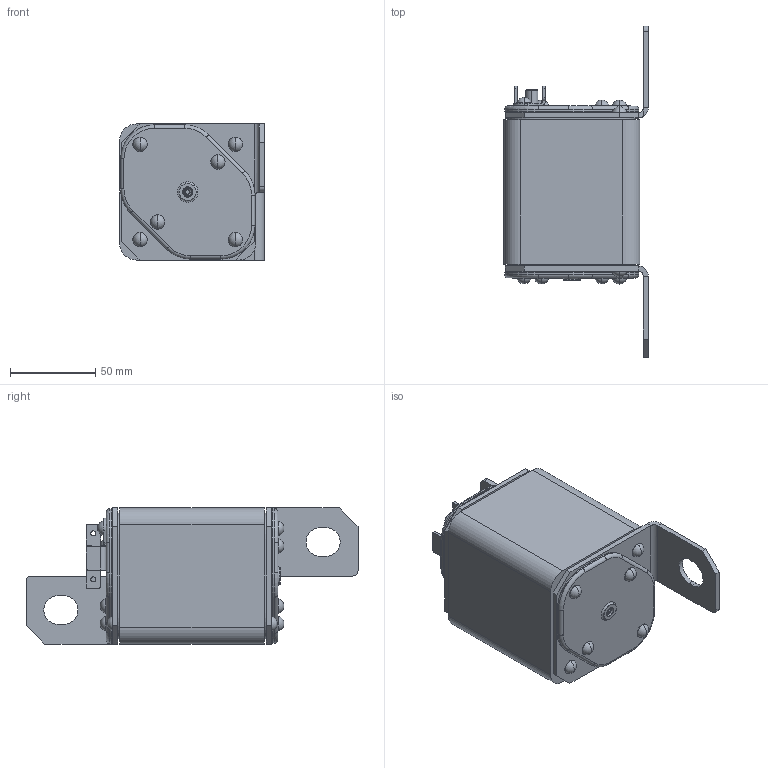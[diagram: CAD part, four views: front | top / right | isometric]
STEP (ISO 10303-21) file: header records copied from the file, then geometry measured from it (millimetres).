
FILE_DESCRIPTION (( 'STEP AP214' ), '1' );
FILE_NAME ('砎槼隰譇膻蠈錪 珫57-39672-XXXA-XXXX-忡曖.STEP', '2023-05-11T12:45:02', ( '' ), ( '' ), 'SwSTEP 2.0', 'SolidWorks 2018', '' );
FILE_SCHEMA (( 'AUTOMOTIVE_DESIGN' ));
Length unit declared in the file: millimetre
Products named in the file (1): 砎槼隰譇膻蠈錪 珫57-39672-XXXA-XXXX-忡曖
Bounding box: 85 x 195 x 80 mm (x, y, z)
Volume: 623912.8 mm3; surface area: 70339.7 mm2
Topology: 1 solids, 18 shells, 673 faces, 1675 edges, 1036 vertices
Faces by surface type: plane 289, cylinder 260, torus 58, cone 42, sphere 24
Entity records: 20747 total; most frequent: CARTESIAN_POINT 4385, DIRECTION 3617, ORIENTED_EDGE 3278, EDGE_CURVE 1639, AXIS2_PLACEMENT_3D 1387, VERTEX_POINT 1024, VECTOR 843, LINE 843
